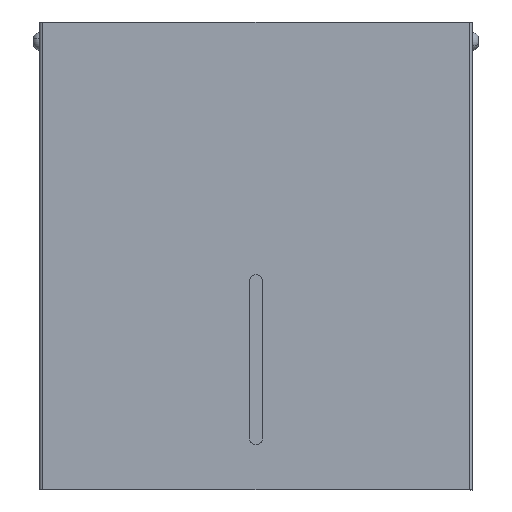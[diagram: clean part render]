
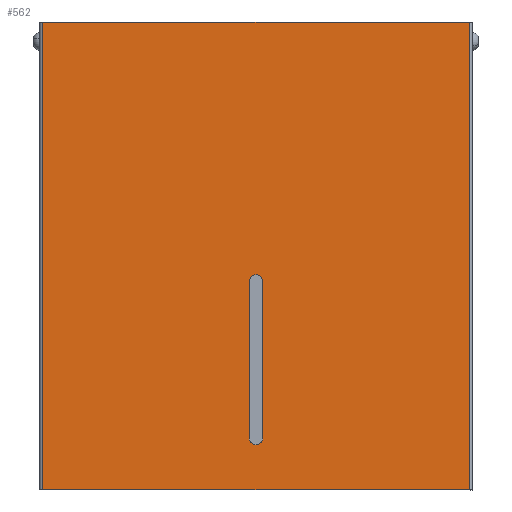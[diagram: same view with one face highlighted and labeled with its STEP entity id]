
A CAD part, top view. The second image highlights one B-rep face of the part: STEP entity #562.
In plain terms, the highlighted planar face has unit normal (0, 0, 1) as drawn and (0, 0, -1) by its records, which use the part's own axes.
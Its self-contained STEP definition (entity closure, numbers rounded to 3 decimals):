
#16 = CARTESIAN_POINT ( 'NONE',  ( -123., 135., -1. ) ) ;
#528 = EDGE_CURVE ( 'NONE', #550, #4675, #1512, .T. ) ;
#537 = DIRECTION ( 'NONE',  ( 0., -1., 0. ) ) ;
#550 = VERTEX_POINT ( 'NONE', #4993 ) ;
#562 = ADVANCED_FACE ( 'NONE', ( #7939, #4296 ), #767, .F. ) ;
#767 = PLANE ( 'NONE',  #4559 ) ;
#778 = EDGE_CURVE ( 'NONE', #1595, #4675, #7050, .T. ) ;
#901 = DIRECTION ( 'NONE',  ( -1., 0., 0. ) ) ;
#1046 = LINE ( 'NONE', #3915, #8569 ) ;
#1053 = CARTESIAN_POINT ( 'NONE',  ( -123., -135., -1. ) ) ;
#1117 = ORIENTED_EDGE ( 'NONE', *, *, #7351, .F. ) ;
#1314 = DIRECTION ( 'NONE',  ( 1., 0., 0. ) ) ;
#1341 = ORIENTED_EDGE ( 'NONE', *, *, #528, .F. ) ;
#1512 = LINE ( 'NONE', #6635, #5311 ) ;
#1595 = VERTEX_POINT ( 'NONE', #1053 ) ;
#1642 = DIRECTION ( 'NONE',  ( 0., 1., 0. ) ) ;
#1825 = AXIS2_PLACEMENT_3D ( 'NONE', #5931, #5840, #8716 ) ;
#1896 = CARTESIAN_POINT ( 'NONE',  ( 4., -105., -1. ) ) ;
#1954 = CIRCLE ( 'NONE', #8553, 4. ) ;
#1957 = VERTEX_POINT ( 'NONE', #5401 ) ;
#2017 = ORIENTED_EDGE ( 'NONE', *, *, #7728, .T. ) ;
#2141 = EDGE_CURVE ( 'NONE', #1957, #5757, #2164, .T. ) ;
#2164 = LINE ( 'NONE', #6438, #3641 ) ;
#2210 = VERTEX_POINT ( 'NONE', #9255 ) ;
#2319 = DIRECTION ( 'NONE',  ( 1., 0., 0. ) ) ;
#2382 = DIRECTION ( 'NONE',  ( 0., 0., -1. ) ) ;
#2743 = CARTESIAN_POINT ( 'NONE',  ( -123., -135., -1. ) ) ;
#2776 = ORIENTED_EDGE ( 'NONE', *, *, #2141, .F. ) ;
#2781 = ORIENTED_EDGE ( 'NONE', *, *, #8121, .F. ) ;
#2888 = DIRECTION ( 'NONE',  ( 0., 0., 1. ) ) ;
#3188 = DIRECTION ( 'NONE',  ( -1., 0., 0. ) ) ;
#3398 = DIRECTION ( 'NONE',  ( 0., 1., 0. ) ) ;
#3484 = CIRCLE ( 'NONE', #1825, 4. ) ;
#3641 = VECTOR ( 'NONE', #7873, 1000. ) ;
#3915 = CARTESIAN_POINT ( 'NONE',  ( -4., -105., -1. ) ) ;
#4057 = LINE ( 'NONE', #9088, #5554 ) ;
#4296 = FACE_OUTER_BOUND ( 'NONE', #9100, .T. ) ;
#4479 = ORIENTED_EDGE ( 'NONE', *, *, #8763, .F. ) ;
#4559 = AXIS2_PLACEMENT_3D ( 'NONE', #5779, #2888, #2319 ) ;
#4675 = VERTEX_POINT ( 'NONE', #16 ) ;
#4810 = ORIENTED_EDGE ( 'NONE', *, *, #778, .T. ) ;
#4993 = CARTESIAN_POINT ( 'NONE',  ( 123., 135., -1. ) ) ;
#5311 = VECTOR ( 'NONE', #901, 1000. ) ;
#5401 = CARTESIAN_POINT ( 'NONE',  ( 4., -15., -1. ) ) ;
#5440 = ORIENTED_EDGE ( 'NONE', *, *, #6192, .F. ) ;
#5554 = VECTOR ( 'NONE', #537, 1000. ) ;
#5757 = VERTEX_POINT ( 'NONE', #1896 ) ;
#5779 = CARTESIAN_POINT ( 'NONE',  ( 0., 0., -1. ) ) ;
#5819 = EDGE_LOOP ( 'NONE', ( #2781, #1117, #2776, #4479 ) ) ;
#5840 = DIRECTION ( 'NONE',  ( 0., 0., -1. ) ) ;
#5931 = CARTESIAN_POINT ( 'NONE',  ( 0., -15., -1. ) ) ;
#6192 = EDGE_CURVE ( 'NONE', #1595, #6928, #6404, .T. ) ;
#6306 = CARTESIAN_POINT ( 'NONE',  ( 125., -135., -1. ) ) ;
#6404 = LINE ( 'NONE', #6306, #9273 ) ;
#6438 = CARTESIAN_POINT ( 'NONE',  ( 4., -105., -1. ) ) ;
#6635 = CARTESIAN_POINT ( 'NONE',  ( 125., 135., -1. ) ) ;
#6928 = VERTEX_POINT ( 'NONE', #7456 ) ;
#7050 = LINE ( 'NONE', #2743, #9074 ) ;
#7351 = EDGE_CURVE ( 'NONE', #5757, #2210, #1954, .T. ) ;
#7456 = CARTESIAN_POINT ( 'NONE',  ( 123., -135., -1. ) ) ;
#7728 = EDGE_CURVE ( 'NONE', #550, #6928, #4057, .T. ) ;
#7825 = VERTEX_POINT ( 'NONE', #9045 ) ;
#7873 = DIRECTION ( 'NONE',  ( 0., -1., 0. ) ) ;
#7939 = FACE_BOUND ( 'NONE', #5819, .T. ) ;
#8121 = EDGE_CURVE ( 'NONE', #2210, #7825, #1046, .T. ) ;
#8553 = AXIS2_PLACEMENT_3D ( 'NONE', #8811, #2382, #3188 ) ;
#8569 = VECTOR ( 'NONE', #1642, 1000. ) ;
#8716 = DIRECTION ( 'NONE',  ( -1., 0., 0. ) ) ;
#8763 = EDGE_CURVE ( 'NONE', #7825, #1957, #3484, .T. ) ;
#8811 = CARTESIAN_POINT ( 'NONE',  ( 0., -105., -1. ) ) ;
#9045 = CARTESIAN_POINT ( 'NONE',  ( -4., -15., -1. ) ) ;
#9074 = VECTOR ( 'NONE', #3398, 1000. ) ;
#9088 = CARTESIAN_POINT ( 'NONE',  ( 123., 135., -1. ) ) ;
#9100 = EDGE_LOOP ( 'NONE', ( #2017, #5440, #4810, #1341 ) ) ;
#9255 = CARTESIAN_POINT ( 'NONE',  ( -4., -105., -1. ) ) ;
#9273 = VECTOR ( 'NONE', #1314, 1000. ) ;
